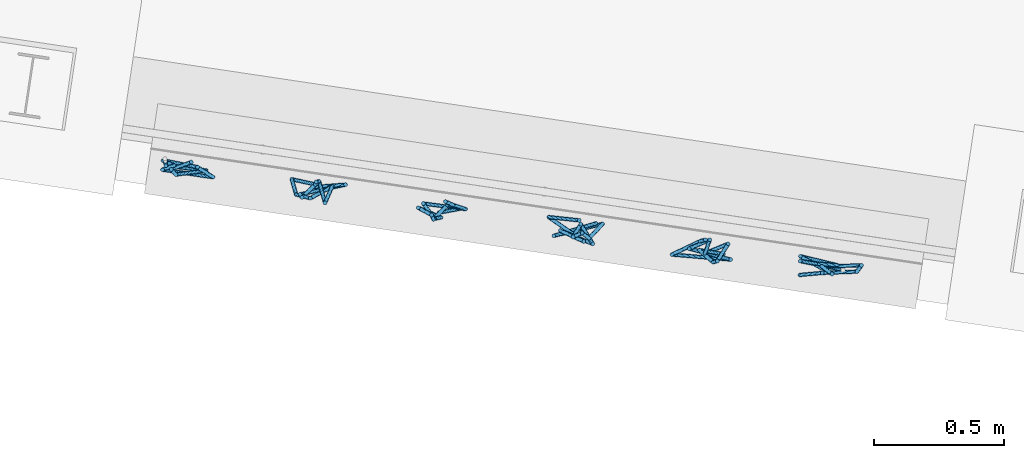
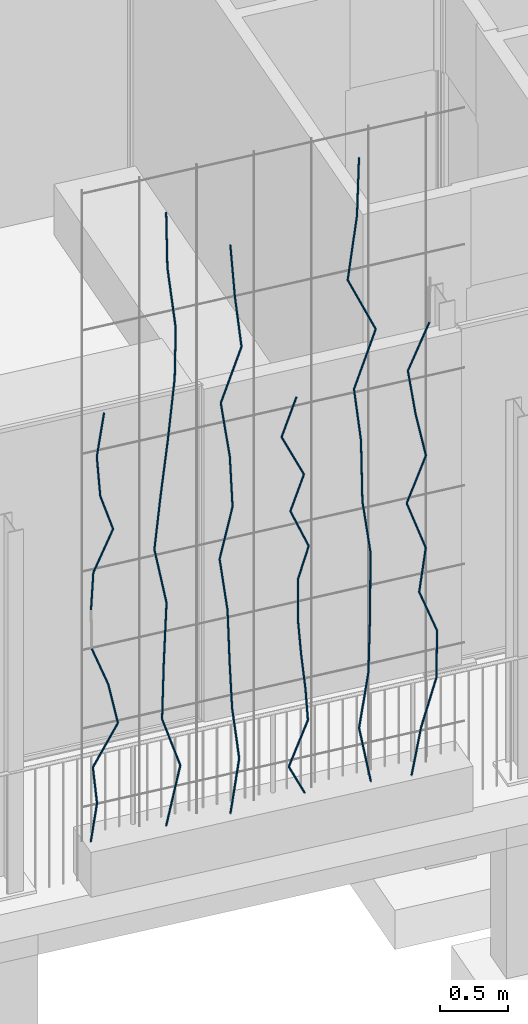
# One storey, part 115 of 142: 64 members, 1 element without a shape of its own.
"""IFC4 building model written with IfcOpenShell, lengths in metres."""

from ifc_helpers import new_model, si_unit, direction, frame, origin_with_axes, place, context, subcontext, project, spatial, circle, extrude, material, material_profile, profile_set, profile_usage, type_object, element, aggregate, save


model = new_model("IFC4")

# Units and contexts
model_context = context("Model", 3, precision=1e-05, world=origin_with_axes(), true_north=direction((0.0, 1.0)))
body_context = subcontext(model_context, "Body", "Model", "MODEL_VIEW")
ifc_project = project(units=[si_unit("AREAUNIT", "SQUARE_METRE"), si_unit("VOLUMEUNIT", "CUBIC_METRE"), si_unit("LENGTHUNIT", "METRE")], contexts=[model_context])

# Site, building, storey
site_placement = place(None, origin_with_axes())
site = spatial("IfcSite", under=ifc_project, at=site_placement, Name="Lares · Rua das Mercês · artigo 4771")
building_placement = place(site_placement, frame((15.0, 9.7, 14.65), z_axis=(0.0, 0.0, 1.0), x_axis=(0.989015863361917, -0.147809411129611, 0.0)))
building = spatial("IfcBuilding", under=site, at=building_placement, Name="Casa Sobreposta")
storey_placement = place(building_placement, origin_with_axes())
storey = spatial("IfcBuildingStorey", under=building, at=storey_placement, Name="00 · Habitação e estacionamento", Elevation=14.65)

# Assembly, members
assembly_placement = place(storey_placement, origin_with_axes())
assembly = element("IfcElementAssembly", 1, at=assembly_placement, inside=storey, Name="Fachada sul e pátio · estrutura e trepadeiras", ObjectType="LIVING_SHADE_TRELLIS", PredefinedType="USERDEFINED")
ifc_material = material(Name="Ramos de trepadeiras", Category="wood")
ifc_material_profile = material_profile(ifc_material, circle(Radius=0.0075))
ifc_profile_set = profile_set([ifc_material_profile], Name="D0.015")
ifc_profile_usage_1 = profile_usage(ifc_profile_set)
member_type = type_object("IfcMemberType", Name="D0.015 / vine_wood", PredefinedType="NOTDEFINED", material=ifc_profile_set)
member_1_placement = place(assembly_placement, frame((4.55197468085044, -1.64925982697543, 0.35), z_axis=(0.129792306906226, -0.0339326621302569, 0.990960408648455), x_axis=(-0.25293691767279, -0.967482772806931, 0.0)))
member_1 = element("IfcMember", 2, at=member_1_placement, type_object=member_type, material=ifc_profile_usage_1, Name="Trepadeiras · ramo", context=body_context, shape_type="SweptSolid", body=[
    extrude(circle(Radius=0.0075), origin_with_axes(), (0.0, 0.0, 1.0), 0.347845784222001),
])
ifc_profile_usage_2 = profile_usage(ifc_profile_set)
member_2_placement = place(assembly_placement, frame((4.59712238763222, -1.66106316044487, 0.694701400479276), z_axis=(-0.119928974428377, -0.0651007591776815, 0.990645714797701), x_axis=(-0.477071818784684, 0.878864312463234, 6.29674832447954e-18)))
member_2 = element("IfcMember", 3, at=member_2_placement, type_object=member_type, material=ifc_profile_usage_2, Name="Trepadeiras · ramo", context=body_context, shape_type="SweptSolid", body=[
    extrude(circle(Radius=0.0075), origin_with_axes(), (0.0, 0.0, 1.0), 0.347956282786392),
])
ifc_profile_usage_3 = profile_usage(ifc_profile_set)
member_3_placement = place(assembly_placement, frame((4.55539234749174, -1.68371537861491, 1.03940280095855), z_axis=(0.495642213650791, 0.000664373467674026, 0.86852654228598), x_axis=(0.00134042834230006, -0.999999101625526, 0.0)))
member_3 = element("IfcMember", 4, at=member_3_placement, type_object=member_type, material=ifc_profile_usage_3, Name="Trepadeiras · ramo", context=body_context, shape_type="SweptSolid", body=[
    extrude(circle(Radius=0.0075), origin_with_axes(), (0.0, 0.0, 1.0), 0.396880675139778),
])
ifc_profile_usage_4 = profile_usage(ifc_profile_set)
member_4_placement = place(assembly_placement, frame((4.75210316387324, -1.68345170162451, 1.38410420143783), z_axis=(-0.183626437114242, 0.0831823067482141, 0.97947028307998), x_axis=(0.41263397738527, 0.910896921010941, 0.0)))
member_4 = element("IfcMember", 5, at=member_4_placement, type_object=member_type, material=ifc_profile_usage_4, Name="Trepadeiras · ramo", context=body_context, shape_type="SweptSolid", body=[
    extrude(circle(Radius=0.0075), origin_with_axes(), (0.0, 0.0, 1.0), 0.351926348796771),
])
ifc_profile_usage_5 = profile_usage(ifc_profile_set)
member_5_placement = place(assembly_placement, frame((4.68748018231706, -1.65417765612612, 1.72880560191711), z_axis=(-0.345167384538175, 0.0158491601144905, 0.938407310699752), x_axis=(0.0458689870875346, 0.998947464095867, -2.35561623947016e-18)))
member_5 = element("IfcMember", 6, at=member_5_placement, type_object=member_type, material=ifc_profile_usage_5, Name="Trepadeiras · ramo", context=body_context, shape_type="SweptSolid", body=[
    extrude(circle(Radius=0.0075), origin_with_axes(), (0.0, 0.0, 1.0), 0.367325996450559),
])
ifc_profile_usage_6 = profile_usage(ifc_profile_set)
member_6_placement = place(assembly_placement, frame((4.55834222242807, -1.64024720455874, 2.41820840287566), z_axis=(0.0218448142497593, -0.0762401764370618, 0.996850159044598), x_axis=(-0.961317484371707, -0.275442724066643, 0.0)))
member_6 = element("IfcMember", 7, at=member_6_placement, type_object=member_type, material=ifc_profile_usage_6, Name="Trepadeiras · ramo", context=body_context, shape_type="SweptSolid", body=[
    extrude(circle(Radius=0.0075), origin_with_axes(), (0.0, 0.0, 1.0), 0.345790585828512),
])
ifc_profile_usage_7 = profile_usage(ifc_profile_set)
member_7_placement = place(assembly_placement, frame((4.56589595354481, -1.66661033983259, 2.76290980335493), z_axis=(0.414696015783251, 0.012751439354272, 0.909870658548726), x_axis=(0.0307343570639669, -0.999527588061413, 0.0)))
member_7 = element("IfcMember", 8, at=member_7_placement, type_object=member_type, material=ifc_profile_usage_7, Name="Trepadeiras · ramo", context=body_context, shape_type="SweptSolid", body=[
    extrude(circle(Radius=0.0075), origin_with_axes(), (0.0, 0.0, 1.0), 0.378846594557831),
])
ifc_profile_usage_8 = profile_usage(ifc_profile_set)
member_8_placement = place(assembly_placement, frame((4.72300212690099, -1.66177950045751, 3.10761120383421), z_axis=(-0.312467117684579, -0.0908269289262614, 0.945576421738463), x_axis=(-0.279123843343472, 0.960255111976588, 0.0)))
member_8 = element("IfcMember", 9, at=member_8_placement, type_object=member_type, material=ifc_profile_usage_8, Name="Trepadeiras · ramo", context=body_context, shape_type="SweptSolid", body=[
    extrude(circle(Radius=0.0075), origin_with_axes(), (0.0, 0.0, 1.0), 0.364541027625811),
])
ifc_profile_usage_9 = profile_usage(ifc_profile_set)
member_9_placement = place(assembly_placement, frame((4.60909504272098, -1.69488964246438, 3.45231260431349), z_axis=(-0.0585484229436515, 0.0497208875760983, 0.997045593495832), x_axis=(0.647306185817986, 0.762230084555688, 0.0)))
member_9 = element("IfcMember", 10, at=member_9_placement, type_object=member_type, material=ifc_profile_usage_9, Name="Trepadeiras · ramo", context=body_context, shape_type="SweptSolid", body=[
    extrude(circle(Radius=0.0075), origin_with_axes(), (0.0, 0.0, 1.0), 0.345722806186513),
])
ifc_profile_usage_10 = profile_usage(ifc_profile_set)
member_10_placement = place(assembly_placement, frame((4.58885351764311, -1.67769999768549, 3.79701400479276), z_axis=(0.203496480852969, 0.111178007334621, 0.97274284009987), x_axis=(0.479450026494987, -0.877569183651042, 0.0)))
member_10 = element("IfcMember", 11, at=member_10_placement, type_object=member_type, material=ifc_profile_usage_10, Name="Trepadeiras · ramo", context=body_context, shape_type="SweptSolid", body=[
    extrude(circle(Radius=0.0075), origin_with_axes(), (0.0, 0.0, 1.0), 0.354360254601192),
])
ifc_profile_usage_11 = profile_usage(ifc_profile_set)
member_11_placement = place(assembly_placement, frame((5.13738922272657, -1.66440915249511, 0.35), z_axis=(0.240432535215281, 0.0544142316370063, 0.96913945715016), x_axis=(0.22073565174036, -0.975333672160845, 0.0)))
member_11 = element("IfcMember", 12, at=member_11_placement, type_object=member_type, material=ifc_profile_usage_11, Name="Trepadeiras · ramo", context=body_context, shape_type="SweptSolid", body=[
    extrude(circle(Radius=0.0075), origin_with_axes(), (0.0, 0.0, 1.0), 0.511992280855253),
])
ifc_profile_usage_12 = profile_usage(ifc_profile_set)
member_12_placement = place(assembly_placement, frame((5.26048882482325, -1.63654948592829, 0.846191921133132), z_axis=(-0.318008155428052, -0.119200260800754, 0.940564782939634), x_axis=(-0.350987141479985, 0.936380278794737, 0.0)))
member_12 = element("IfcMember", 13, at=member_12_placement, type_object=member_type, material=ifc_profile_usage_12, Name="Trepadeiras · ramo", context=body_context, shape_type="SweptSolid", body=[
    extrude(circle(Radius=0.0075), origin_with_axes(), (0.0, 0.0, 1.0), 0.527546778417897),
])
ifc_profile_usage_13 = profile_usage(ifc_profile_set)
member_13_placement = place(assembly_placement, frame((5.09272464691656, -1.6994331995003, 1.34238384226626), z_axis=(0.0181040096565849, -0.0206847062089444, 0.999622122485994), x_axis=(0.999836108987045, 0.000374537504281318, -0.0181001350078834)))
member_13 = element("IfcMember", 14, at=member_13_placement, type_object=member_type, material=ifc_profile_usage_13, Name="Trepadeiras · ramo", context=body_context, shape_type="SweptSolid", body=[
    extrude(circle(Radius=0.0075), origin_with_axes(), (0.0, 0.0, 1.0), 0.49637949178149),
])
ifc_profile_usage_14 = profile_usage(ifc_profile_set)
member_14_placement = place(assembly_placement, frame((5.10171110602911, -1.70970066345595, 1.8385757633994), z_axis=(0.0881972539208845, 0.113613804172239, 0.989602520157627), x_axis=(0.789921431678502, -0.613208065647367, 0.0)))
member_14 = element("IfcMember", 15, at=member_14_placement, type_object=member_type, material=ifc_profile_usage_14, Name="Trepadeiras · ramo", context=body_context, shape_type="SweptSolid", body=[
    extrude(circle(Radius=0.0075), origin_with_axes(), (0.0, 0.0, 1.0), 0.5014052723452),
])
ifc_profile_usage_15 = profile_usage(ifc_profile_set)
member_15_placement = place(assembly_placement, frame((5.14593367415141, -1.65273410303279, 2.33476768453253), z_axis=(-0.18412719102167, 0.0119105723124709, 0.982830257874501), x_axis=(0.0645517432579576, 0.997914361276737, 0.0)))
member_15 = element("IfcMember", 16, at=member_15_placement, type_object=member_type, material=ifc_profile_usage_15, Name="Trepadeiras · ramo", context=body_context, shape_type="SweptSolid", body=[
    extrude(circle(Radius=0.0075), origin_with_axes(), (0.0, 0.0, 1.0), 0.50486024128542),
])
ifc_profile_usage_16 = profile_usage(ifc_profile_set)
member_16_placement = place(assembly_placement, frame((5.052975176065, -1.64672092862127, 2.83095960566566), z_axis=(0.0509410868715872, -0.111318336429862, 0.992478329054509), x_axis=(-0.909311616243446, -0.416115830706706, 0.0)))
member_16 = element("IfcMember", 17, at=member_16_placement, type_object=member_type, material=ifc_profile_usage_16, Name="Trepadeiras · ramo", context=body_context, shape_type="SweptSolid", body=[
    extrude(circle(Radius=0.0075), origin_with_axes(), (0.0, 0.0, 1.0), 0.499952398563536),
])
ifc_profile_usage_17 = profile_usage(ifc_profile_set)
member_17_placement = place(assembly_placement, frame((5.07844329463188, -1.70237479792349, 3.32715152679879), z_axis=(0.111662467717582, -0.0113171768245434, 0.993681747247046), x_axis=(-0.100835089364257, -0.994903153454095, 0.0)))
member_17 = element("IfcMember", 18, at=member_17_placement, type_object=member_type, material=ifc_profile_usage_17, Name="Trepadeiras · ramo", context=body_context, shape_type="SweptSolid", body=[
    extrude(circle(Radius=0.0075), origin_with_axes(), (0.0, 0.0, 1.0), 0.499346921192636),
])
ifc_profile_usage_18 = profile_usage(ifc_profile_set)
member_18_placement = place(assembly_placement, frame((5.13420160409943, -1.70802599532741, 3.82334344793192), z_axis=(0.150889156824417, 0.111712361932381, 0.982218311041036), x_axis=(0.595030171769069, -0.803703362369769, 0.0)))
member_18 = element("IfcMember", 19, at=member_18_placement, type_object=member_type, material=ifc_profile_usage_18, Name="Trepadeiras · ramo", context=body_context, shape_type="SweptSolid", body=[
    extrude(circle(Radius=0.0075), origin_with_axes(), (0.0, 0.0, 1.0), 0.505174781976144),
])
ifc_profile_usage_19 = profile_usage(ifc_profile_set)
member_19_placement = place(assembly_placement, frame((5.21042700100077, -1.65159172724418, 4.31953536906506), z_axis=(-0.0354680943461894, -0.131438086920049, 0.99068968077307), x_axis=(-0.965466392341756, 0.260527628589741, 0.0)))
member_19 = element("IfcMember", 20, at=member_19_placement, type_object=member_type, material=ifc_profile_usage_19, Name="Trepadeiras · ramo", context=body_context, shape_type="SweptSolid", body=[
    extrude(circle(Radius=0.0075), origin_with_axes(), (0.0, 0.0, 1.0), 0.500855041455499),
])
ifc_profile_usage_20 = profile_usage(ifc_profile_set)
member_20_placement = place(assembly_placement, frame((5.19266262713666, -1.71742315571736, 4.81572729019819), z_axis=(-0.0686747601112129, 0.155818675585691, 0.985395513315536), x_axis=(0.915066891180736, 0.403302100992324, 0.0)))
member_20 = element("IfcMember", 21, at=member_20_placement, type_object=member_type, material=ifc_profile_usage_20, Name="Trepadeiras · ramo", context=body_context, shape_type="SweptSolid", body=[
    extrude(circle(Radius=0.0075), origin_with_axes(), (0.0, 0.0, 1.0), 0.503545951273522),
])
ifc_profile_usage_21 = profile_usage(ifc_profile_set)
member_21_placement = place(assembly_placement, frame((5.15808172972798, -1.63896129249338, 5.31191921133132), z_axis=(-0.0221663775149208, -0.00749263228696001, 0.999726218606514), x_axis=(0.999754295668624, -0.000166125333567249, 0.0221657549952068)))
member_21 = element("IfcMember", 22, at=member_21_placement, type_object=member_type, material=ifc_profile_usage_21, Name="Trepadeiras · ramo", context=body_context, shape_type="SweptSolid", body=[
    extrude(circle(Radius=0.0075), origin_with_axes(), (0.0, 0.0, 1.0), 0.496327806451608),
])
ifc_profile_usage_22 = profile_usage(ifc_profile_set)
member_22_placement = place(assembly_placement, frame((5.63220136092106, -1.68990743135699, 0.35), z_axis=(0.173486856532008, 0.0605084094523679, 0.982975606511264), x_axis=(0.32932236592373, -0.944217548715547, 0.0)))
member_22 = element("IfcMember", 23, at=member_22_placement, type_object=member_type, material=ifc_profile_usage_22, Name="Trepadeiras · ramo", context=body_context, shape_type="SweptSolid", body=[
    extrude(circle(Radius=0.0075), origin_with_axes(), (0.0, 0.0, 1.0), 0.466118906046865),
])
ifc_profile_usage_23 = profile_usage(ifc_profile_set)
member_23_placement = place(assembly_placement, frame((5.71306686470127, -1.66170331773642, 0.808183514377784), z_axis=(-0.115708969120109, 0.0131407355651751, 0.993196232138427), x_axis=(0.1128417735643, 0.993612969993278, 0.0)))
member_23 = element("IfcMember", 24, at=member_23_placement, type_object=member_type, material=ifc_profile_usage_23, Name="Trepadeiras · ramo", context=body_context, shape_type="SweptSolid", body=[
    extrude(circle(Radius=0.0075), origin_with_axes(), (0.0, 0.0, 1.0), 0.461322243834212),
])
ifc_profile_usage_24 = profile_usage(ifc_profile_set)
member_24_placement = place(assembly_placement, frame((5.65968774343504, -1.65564120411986, 1.26636702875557), z_axis=(-0.0956717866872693, -0.135853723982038, 0.986098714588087), x_axis=(-0.817605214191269, 0.575779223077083, 0.0)))
member_24 = element("IfcMember", 25, at=member_24_placement, type_object=member_type, material=ifc_profile_usage_24, Name="Trepadeiras · ramo", context=body_context, shape_type="SweptSolid", body=[
    extrude(circle(Radius=0.0075), origin_with_axes(), (0.0, 0.0, 1.0), 0.464642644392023),
])
ifc_profile_usage_25 = profile_usage(ifc_profile_set)
member_25_placement = place(assembly_placement, frame((5.61523455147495, -1.71876463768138, 1.72455054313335), z_axis=(-0.0217451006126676, 0.0344773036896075, 0.999168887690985), x_axis=(0.999763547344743, 0.000749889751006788, 0.0217321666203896)))
member_25 = element("IfcMember", 26, at=member_25_placement, type_object=member_type, material=ifc_profile_usage_25, Name="Trepadeiras · ramo", context=body_context, shape_type="SweptSolid", body=[
    extrude(circle(Radius=0.0075), origin_with_axes(), (0.0, 0.0, 1.0), 0.458564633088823),
])
ifc_profile_usage_26 = profile_usage(ifc_profile_set)
member_26_placement = place(assembly_placement, frame((5.60526301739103, -1.70295456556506, 2.18273405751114), z_axis=(-0.118138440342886, 0.0429210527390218, 0.992069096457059), x_axis=(0.341473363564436, 0.939891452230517, 0.0)))
member_26 = element("IfcMember", 27, at=member_26_placement, type_object=member_type, material=ifc_profile_usage_26, Name="Trepadeiras · ramo", context=body_context, shape_type="SweptSolid", body=[
    extrude(circle(Radius=0.0075), origin_with_axes(), (0.0, 0.0, 1.0), 0.461846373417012),
])
ifc_profile_usage_27 = profile_usage(ifc_profile_set)
member_27_placement = place(assembly_placement, frame((5.55070120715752, -1.6831316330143, 2.64091757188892), z_axis=(0.19709303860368, -0.0505499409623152, 0.979080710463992), x_axis=(-0.248436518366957, -0.968648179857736, 0.0)))
member_27 = element("IfcMember", 28, at=member_27_placement, type_object=member_type, material=ifc_profile_usage_27, Name="Trepadeiras · ramo", context=body_context, shape_type="SweptSolid", body=[
    extrude(circle(Radius=0.0075), origin_with_axes(), (0.0, 0.0, 1.0), 0.467973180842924),
])
ifc_profile_usage_28 = profile_usage(ifc_profile_set)
member_28_placement = place(assembly_placement, frame((5.64293546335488, -1.70678764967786, 3.0991010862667), z_axis=(-0.054053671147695, -0.0197998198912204, 0.998341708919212), x_axis=(-0.343950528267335, 0.938987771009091, 0.0)))
member_28 = element("IfcMember", 29, at=member_28_placement, type_object=member_type, material=ifc_profile_usage_28, Name="Trepadeiras · ramo", context=body_context, shape_type="SweptSolid", body=[
    extrude(circle(Radius=0.0075), origin_with_axes(), (0.0, 0.0, 1.0), 0.458944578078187),
])
ifc_profile_usage_29 = profile_usage(ifc_profile_set)
member_29_placement = place(assembly_placement, frame((5.61812782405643, -1.71587466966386, 3.55728460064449), z_axis=(-0.109531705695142, 0.111331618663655, 0.987728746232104), x_axis=(0.712845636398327, 0.701320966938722, 0.0)))
member_29 = element("IfcMember", 30, at=member_29_placement, type_object=member_type, material=ifc_profile_usage_29, Name="Trepadeiras · ramo", context=body_context, shape_type="SweptSolid", body=[
    extrude(circle(Radius=0.0075), origin_with_axes(), (0.0, 0.0, 1.0), 0.463875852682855),
])
ifc_profile_usage_30 = profile_usage(ifc_profile_set)
member_30_placement = place(assembly_placement, frame((5.56731871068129, -1.6642306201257, 4.01546811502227), z_axis=(0.336572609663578, 0.00606468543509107, 0.941637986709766), x_axis=(0.0180160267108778, -0.999837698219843, 0.0)))
member_30 = element("IfcMember", 31, at=member_30_placement, type_object=member_type, material=ifc_profile_usage_30, Name="Trepadeiras · ramo", context=body_context, shape_type="SweptSolid", body=[
    extrude(circle(Radius=0.0075), origin_with_axes(), (0.0, 0.0, 1.0), 0.48658138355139),
])
ifc_profile_usage_31 = profile_usage(ifc_profile_set)
member_31_placement = place(assembly_placement, frame((5.73108867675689, -1.66127965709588, 4.47365162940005), z_axis=(-0.106013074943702, 0.0180386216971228, 0.994201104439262), x_axis=(0.167743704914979, 0.985830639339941, 0.0)))
member_31 = element("IfcMember", 32, at=member_31_placement, type_object=member_type, material=ifc_profile_usage_31, Name="Trepadeiras · ramo", context=body_context, shape_type="SweptSolid", body=[
    extrude(circle(Radius=0.0075), origin_with_axes(), (0.0, 0.0, 1.0), 0.460855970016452),
])
ifc_profile_usage_32 = profile_usage(ifc_profile_set)
member_32_placement = place(assembly_placement, frame((5.68223191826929, -1.6529664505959, 4.93183514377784), z_axis=(-0.0697881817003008, 0.0188845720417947, 0.997383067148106), x_axis=(0.261204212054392, 0.965283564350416, 0.0)))
member_32 = element("IfcMember", 33, at=member_32_placement, type_object=member_type, material=ifc_profile_usage_32, Name="Trepadeiras · ramo", context=body_context, shape_type="SweptSolid", body=[
    extrude(circle(Radius=0.0075), origin_with_axes(), (0.0, 0.0, 1.0), 0.459385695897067),
])
ifc_profile_usage_33 = profile_usage(ifc_profile_set)
member_33_placement = place(assembly_placement, frame((6.23679718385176, -1.64103048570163, 0.35), z_axis=(-0.42416376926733, -0.196770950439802, 0.883949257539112), x_axis=(-0.420825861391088, 0.90714144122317, 0.0)))
member_33 = element("IfcMember", 34, at=member_33_placement, type_object=member_type, material=ifc_profile_usage_33, Name="Trepadeiras · ramo", context=body_context, shape_type="SweptSolid", body=[
    extrude(circle(Radius=0.0075), origin_with_axes(), (0.0, 0.0, 1.0), 0.364794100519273),
])
ifc_profile_usage_34 = profile_usage(ifc_profile_set)
member_34_placement = place(assembly_placement, frame((6.08206474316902, -1.71281136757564, 0.67245947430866), z_axis=(0.475917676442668, 0.19443061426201, 0.857729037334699), x_axis=(0.378194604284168, -0.925726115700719, 0.0)))
member_34 = element("IfcMember", 35, at=member_34_placement, type_object=member_type, material=ifc_profile_usage_34, Name="Trepadeiras · ramo", context=body_context, shape_type="SweptSolid", body=[
    extrude(circle(Radius=0.0075), origin_with_axes(), (0.0, 0.0, 1.0), 0.375945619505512),
])
ifc_profile_usage_35 = profile_usage(ifc_profile_set)
member_35_placement = place(assembly_placement, frame((6.26098390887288, -1.63971602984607, 0.994918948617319), z_axis=(-0.130658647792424, -0.188661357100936, 0.973311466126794), x_axis=(-0.822096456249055, 0.569348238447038, 0.0)))
member_35 = element("IfcMember", 36, at=member_35_placement, type_object=member_type, material=ifc_profile_usage_35, Name="Trepadeiras · ramo", context=body_context, shape_type="SweptSolid", body=[
    extrude(circle(Radius=0.0075), origin_with_axes(), (0.0, 0.0, 1.0), 0.331301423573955),
])
ifc_profile_usage_36 = profile_usage(ifc_profile_set)
member_36_placement = place(assembly_placement, frame((6.21769651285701, -1.702219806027, 1.31737842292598), z_axis=(-0.0893962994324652, 0.0502500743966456, 0.994727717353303), x_axis=(0.489999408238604, 0.871722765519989, 0.0)))
member_36 = element("IfcMember", 37, at=member_36_placement, type_object=member_type, material=ifc_profile_usage_36, Name="Trepadeiras · ramo", context=body_context, shape_type="SweptSolid", body=[
    extrude(circle(Radius=0.0075), origin_with_axes(), (0.0, 0.0, 1.0), 0.324168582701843),
])
ifc_profile_usage_37 = profile_usage(ifc_profile_set)
member_37_placement = place(assembly_placement, frame((6.18871704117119, -1.68593031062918, 1.63983789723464), z_axis=(-0.100606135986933, -0.0629655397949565, 0.992931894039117), x_axis=(-0.53052417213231, 0.847669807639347, 0.0)))
member_37 = element("IfcMember", 38, at=member_37_placement, type_object=member_type, material=ifc_profile_usage_37, Name="Trepadeiras · ramo", context=body_context, shape_type="SweptSolid", body=[
    extrude(circle(Radius=0.0075), origin_with_axes(), (0.0, 0.0, 1.0), 0.324754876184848),
])
ifc_profile_usage_38 = profile_usage(ifc_profile_set)
member_38_placement = place(assembly_placement, frame((6.15604470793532, -1.70637867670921, 1.9622973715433), z_axis=(0.068330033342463, 0.161303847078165, 0.984536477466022), x_axis=(0.920790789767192, -0.390056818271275, 0.0)))
member_38 = element("IfcMember", 39, at=member_38_placement, type_object=member_type, material=ifc_profile_usage_38, Name="Trepadeiras · ramo", context=body_context, shape_type="SweptSolid", body=[
    extrude(circle(Radius=0.0075), origin_with_axes(), (0.0, 0.0, 1.0), 0.327524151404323),
])
ifc_profile_usage_39 = profile_usage(ifc_profile_set)
member_39_placement = place(assembly_placement, frame((6.17842444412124, -1.65354777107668, 2.28475684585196), z_axis=(0.170380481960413, -0.202410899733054, 0.964365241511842), x_axis=(-0.765043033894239, -0.64397915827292, 0.0)))
member_39 = element("IfcMember", 40, at=member_39_placement, type_object=member_type, material=ifc_profile_usage_39, Name="Trepadeiras · ramo", context=body_context, shape_type="SweptSolid", body=[
    extrude(circle(Radius=0.0075), origin_with_axes(), (0.0, 0.0, 1.0), 0.334374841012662),
])
ifc_profile_usage_40 = profile_usage(ifc_profile_set)
member_40_placement = place(assembly_placement, frame((6.23539539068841, -1.72122888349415, 2.60721632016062), z_axis=(-0.376155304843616, 0.0917282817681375, 0.922004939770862), x_axis=(0.236914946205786, 0.971530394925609, 0.0)))
member_40 = element("IfcMember", 41, at=member_40_placement, type_object=member_type, material=ifc_profile_usage_40, Name="Trepadeiras · ramo", context=body_context, shape_type="SweptSolid", body=[
    extrude(circle(Radius=0.0075), origin_with_axes(), (0.0, 0.0, 1.0), 0.349737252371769),
])
ifc_profile_usage_41 = profile_usage(ifc_profile_set)
member_41_placement = place(assembly_placement, frame((6.10383986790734, -1.68914808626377, 2.92967579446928), z_axis=(0.282893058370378, -0.0830680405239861, 0.955547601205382), x_axis=(-0.281742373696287, -0.959490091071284, 0.0)))
member_41 = element("IfcMember", 42, at=member_41_placement, type_object=member_type, material=ifc_profile_usage_41, Name="Trepadeiras · ramo", context=body_context, shape_type="SweptSolid", body=[
    extrude(circle(Radius=0.0075), origin_with_axes(), (0.0, 0.0, 1.0), 0.337460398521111),
])
ifc_profile_usage_42 = profile_usage(ifc_profile_set)
member_42_placement = place(assembly_placement, frame((6.19930507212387, -1.71718026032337, 3.25213526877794), z_axis=(-0.406099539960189, 0.201123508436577, 0.891421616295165), x_axis=(0.443809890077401, 0.896120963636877, 0.0)))
member_42 = element("IfcMember", 43, at=member_42_placement, type_object=member_type, material=ifc_profile_usage_42, Name="Trepadeiras · ramo", context=body_context, shape_type="SweptSolid", body=[
    extrude(circle(Radius=0.0075), origin_with_axes(), (0.0, 0.0, 1.0), 0.361736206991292),
])
ifc_profile_usage_43 = profile_usage(ifc_profile_set)
member_43_placement = place(assembly_placement, frame((6.05240416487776, -1.64442660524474, 3.5745947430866), z_axis=(0.344211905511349, 0.0140146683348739, 0.938787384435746), x_axis=(0.0406815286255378, -0.999172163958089, 0.0)))
member_43 = element("IfcMember", 44, at=member_43_placement, type_object=member_type, material=ifc_profile_usage_43, Name="Trepadeiras · ramo", context=body_context, shape_type="SweptSolid", body=[
    extrude(circle(Radius=0.0075), origin_with_axes(), (0.0, 0.0, 1.0), 0.343485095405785),
])
ifc_profile_usage_44 = profile_usage(ifc_profile_set)
member_44_placement = place(assembly_placement, frame((6.73808430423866, -1.68561583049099, 0.35), z_axis=(-0.181547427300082, 0.00211914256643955, 0.983379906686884), x_axis=(0.0116718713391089, 0.999931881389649, 0.0)))
member_44 = element("IfcMember", 45, at=member_44_placement, type_object=member_type, material=ifc_profile_usage_44, Name="Trepadeiras · ramo", context=body_context, shape_type="SweptSolid", body=[
    extrude(circle(Radius=0.0075), origin_with_axes(), (0.0, 0.0, 1.0), 0.513770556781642),
])
ifc_profile_usage_45 = profile_usage(ifc_profile_set)
member_45_placement = place(assembly_placement, frame((6.64481058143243, -1.68452707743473, 0.8552316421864), z_axis=(0.114898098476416, -0.0745573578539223, 0.990575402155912), x_axis=(-0.544339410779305, -0.838865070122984, -1.2545762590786e-17)))
member_45 = element("IfcMember", 46, at=member_45_placement, type_object=member_type, material=ifc_profile_usage_45, Name="Trepadeiras · ramo", context=body_context, shape_type="SweptSolid", body=[
    extrude(circle(Radius=0.0075), origin_with_axes(), (0.0, 0.0, 1.0), 0.510038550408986),
])
ifc_profile_usage_46 = profile_usage(ifc_profile_set)
member_46_placement = place(assembly_placement, frame((6.70341304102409, -1.72255420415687, 1.3604632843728), z_axis=(0.0306536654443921, 0.0133643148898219, 0.999440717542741), x_axis=(0.999530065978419, -0.000409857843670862, -0.0306509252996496)))
member_46 = element("IfcMember", 47, at=member_46_placement, type_object=member_type, material=ifc_profile_usage_46, Name="Trepadeiras · ramo", context=body_context, shape_type="SweptSolid", body=[
    extrude(circle(Radius=0.0075), origin_with_axes(), (0.0, 0.0, 1.0), 0.505514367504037),
])
ifc_profile_usage_47 = profile_usage(ifc_profile_set)
member_47_placement = place(assembly_placement, frame((6.71890890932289, -1.71579835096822, 1.8656949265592), z_axis=(0.0613470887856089, 0.139942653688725, 0.988257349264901), x_axis=(0.915863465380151, -0.40148986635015, -1.12196920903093e-17)))
member_47 = element("IfcMember", 48, at=member_47_placement, type_object=member_type, material=ifc_profile_usage_47, Name="Trepadeiras · ramo", context=body_context, shape_type="SweptSolid", body=[
    extrude(circle(Radius=0.0075), origin_with_axes(), (0.0, 0.0, 1.0), 0.511234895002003),
])
ifc_profile_usage_48 = profile_usage(ifc_profile_set)
member_48_placement = place(assembly_placement, frame((6.75027168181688, -1.64425478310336, 2.3709265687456), z_axis=(-0.160372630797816, -0.0941871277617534, 0.982552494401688), x_axis=(-0.506421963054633, 0.862285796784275, 0.0)))
member_48 = element("IfcMember", 49, at=member_48_placement, type_object=member_type, material=ifc_profile_usage_48, Name="Trepadeiras · ramo", context=body_context, shape_type="SweptSolid", body=[
    extrude(circle(Radius=0.0075), origin_with_axes(), (0.0, 0.0, 1.0), 0.514203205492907),
])
ifc_profile_usage_49 = profile_usage(ifc_profile_set)
member_49_placement = place(assembly_placement, frame((6.66780756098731, -1.69268610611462, 2.876158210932), z_axis=(0.0197044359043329, 0.105077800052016, 0.994268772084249), x_axis=(0.982868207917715, -0.18430975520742, 0.0)))
member_49 = element("IfcMember", 50, at=member_49_placement, type_object=member_type, material=ifc_profile_usage_49, Name="Trepadeiras · ramo", context=body_context, shape_type="SweptSolid", body=[
    extrude(circle(Radius=0.0075), origin_with_axes(), (0.0, 0.0, 1.0), 0.508143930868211),
])
ifc_profile_usage_50 = profile_usage(ifc_profile_set)
member_50_placement = place(assembly_placement, frame((6.67782025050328, -1.63929145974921, 3.3813898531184), z_axis=(-0.141774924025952, -0.0883735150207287, 0.985946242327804), x_axis=(-0.528983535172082, 0.848632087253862, 0.0)))
member_50 = element("IfcMember", 51, at=member_50_placement, type_object=member_type, material=ifc_profile_usage_50, Name="Trepadeiras · ramo", context=body_context, shape_type="SweptSolid", body=[
    extrude(circle(Radius=0.0075), origin_with_axes(), (0.0, 0.0, 1.0), 0.512433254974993),
])
ifc_profile_usage_51 = profile_usage(ifc_profile_set)
member_51_placement = place(assembly_placement, frame((6.60517006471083, -1.68457698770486, 3.8866214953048), z_axis=(0.307758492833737, -0.0338588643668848, 0.950861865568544), x_axis=(-0.109357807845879, -0.99400244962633, 0.0)))
member_51 = element("IfcMember", 52, at=member_51_placement, type_object=member_type, material=ifc_profile_usage_51, Name="Trepadeiras · ramo", context=body_context, shape_type="SweptSolid", body=[
    extrude(circle(Radius=0.0075), origin_with_axes(), (0.0, 0.0, 1.0), 0.531340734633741),
])
ifc_profile_usage_52 = profile_usage(ifc_profile_set)
member_52_placement = place(assembly_placement, frame((6.76869468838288, -1.70256758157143, 4.3918531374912), z_axis=(-0.408006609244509, -0.0258958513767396, 0.91261164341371), x_axis=(-0.063341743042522, 0.997991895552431, 0.0)))
member_52 = element("IfcMember", 53, at=member_52_placement, type_object=member_type, material=ifc_profile_usage_52, Name="Trepadeiras · ramo", context=body_context, shape_type="SweptSolid", body=[
    extrude(circle(Radius=0.0075), origin_with_axes(), (0.0, 0.0, 1.0), 0.553610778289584),
])
ifc_profile_usage_53 = profile_usage(ifc_profile_set)
member_53_placement = place(assembly_placement, frame((6.54281783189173, -1.71690380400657, 4.8970847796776), z_axis=(0.191503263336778, 0.128508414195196, 0.973042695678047), x_axis=(0.557217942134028, -0.830366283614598, 0.0)))
member_53 = element("IfcMember", 54, at=member_53_placement, type_object=member_type, material=ifc_profile_usage_53, Name="Trepadeiras · ramo", context=body_context, shape_type="SweptSolid", body=[
    extrude(circle(Radius=0.0075), origin_with_axes(), (0.0, 0.0, 1.0), 0.519228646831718),
])
ifc_profile_usage_54 = profile_usage(ifc_profile_set)
member_54_placement = place(assembly_placement, frame((6.64225181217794, -1.65017855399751, 5.402316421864), z_axis=(0.0377144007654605, 0.0174593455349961, 0.999136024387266), x_axis=(0.999288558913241, -0.000658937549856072, -0.0377086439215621)))
member_54 = element("IfcMember", 55, at=member_54_placement, type_object=member_type, material=ifc_profile_usage_54, Name="Trepadeiras · ramo", context=body_context, shape_type="SweptSolid", body=[
    extrude(circle(Radius=0.0075), origin_with_axes(), (0.0, 0.0, 1.0), 0.505668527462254),
])
ifc_profile_usage_55 = profile_usage(ifc_profile_set)
member_55_placement = place(assembly_placement, frame((7.0409717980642, -1.72179415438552, 0.35), z_axis=(0.206799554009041, 0.0504590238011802, 0.977081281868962), x_axis=(0.237045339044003, -0.971498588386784, 0.0)))
member_55 = element("IfcMember", 56, at=member_55_placement, type_object=member_type, material=ifc_profile_usage_55, Name="Trepadeiras · ramo", context=body_context, shape_type="SweptSolid", body=[
    extrude(circle(Radius=0.0075), origin_with_axes(), (0.0, 0.0, 1.0), 0.40704822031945),
])
ifc_profile_usage_56 = profile_usage(ifc_profile_set)
member_56_placement = place(assembly_placement, frame((7.12514918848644, -1.7012548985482, 0.747719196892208), z_axis=(0.311542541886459, 0.0586496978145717, 0.948420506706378), x_axis=(0.185006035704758, -0.982737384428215, 0.0)))
member_56 = element("IfcMember", 57, at=member_56_placement, type_object=member_type, material=ifc_profile_usage_56, Name="Trepadeiras · ramo", context=body_context, shape_type="SweptSolid", body=[
    extrude(circle(Radius=0.0075), origin_with_axes(), (0.0, 0.0, 1.0), 0.419349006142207),
])
ifc_profile_usage_57 = profile_usage(ifc_profile_set)
member_57_placement = place(assembly_placement, frame((7.25579424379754, -1.67666020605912, 1.14543839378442), z_axis=(0.0355192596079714, 0.0656197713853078, 0.997212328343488), x_axis=(0.879431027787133, -0.476026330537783, 0.0)))
member_57 = element("IfcMember", 58, at=member_57_placement, type_object=member_type, material=ifc_profile_usage_57, Name="Trepadeiras · ramo", context=body_context, shape_type="SweptSolid", body=[
    extrude(circle(Radius=0.0075), origin_with_axes(), (0.0, 0.0, 1.0), 0.398831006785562),
])
ifc_profile_usage_58 = profile_usage(ifc_profile_set)
member_58_placement = place(assembly_placement, frame((7.26996042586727, -1.65048900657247, 1.54315759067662), z_axis=(-0.352017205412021, -0.0610474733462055, 0.934000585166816), x_axis=(-0.170871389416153, 0.985293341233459, 0.0)))
member_58 = element("IfcMember", 59, at=member_58_placement, type_object=member_type, material=ifc_profile_usage_58, Name="Trepadeiras · ramo", context=body_context, shape_type="SweptSolid", body=[
    extrude(circle(Radius=0.0075), origin_with_axes(), (0.0, 0.0, 1.0), 0.425823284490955),
])
ifc_profile_usage_59 = profile_usage(ifc_profile_set)
member_59_placement = place(assembly_placement, frame((7.12006330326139, -1.67648444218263, 1.94087678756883), z_axis=(0.106642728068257, -0.0582669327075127, 0.992588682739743), x_axis=(-0.479474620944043, -0.877555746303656, 0.0)))
member_59 = element("IfcMember", 60, at=member_59_placement, type_object=member_type, material=ifc_profile_usage_59, Name="Trepadeiras · ramo", context=body_context, shape_type="SweptSolid", body=[
    extrude(circle(Radius=0.0075), origin_with_axes(), (0.0, 0.0, 1.0), 0.400688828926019),
])
ifc_profile_usage_60 = profile_usage(ifc_profile_set)
member_60_placement = place(assembly_placement, frame((7.16279385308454, -1.69983135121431, 2.33859598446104), z_axis=(-0.309633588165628, 0.117325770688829, 0.943589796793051), x_axis=(0.35433355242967, 0.935119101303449, 0.0)))
member_60 = element("IfcMember", 61, at=member_60_placement, type_object=member_type, material=ifc_profile_usage_60, Name="Trepadeiras · ramo", context=body_context, shape_type="SweptSolid", body=[
    extrude(circle(Radius=0.0075), origin_with_axes(), (0.0, 0.0, 1.0), 0.421495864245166),
])
ifc_profile_usage_61 = profile_usage(ifc_profile_set)
member_61_placement = place(assembly_placement, frame((7.03228457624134, -1.6503790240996, 2.73631518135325), z_axis=(0.34367232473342, -0.0309587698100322, 0.938579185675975), x_axis=(-0.0897189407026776, -0.99596712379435, 0.0)))
member_61 = element("IfcMember", 62, at=member_61_placement, type_object=member_type, material=ifc_profile_usage_61, Name="Trepadeiras · ramo", context=body_context, shape_type="SweptSolid", body=[
    extrude(circle(Radius=0.0075), origin_with_axes(), (0.0, 0.0, 1.0), 0.423746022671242),
])
ifc_profile_usage_62 = profile_usage(ifc_profile_set)
member_62_placement = place(assembly_placement, frame((7.1779143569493, -1.66349767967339, 3.13403437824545), z_axis=(-0.206255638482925, -0.0155963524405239, 0.978373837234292), x_axis=(-0.0754013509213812, 0.997153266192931, 0.0)))
member_62 = element("IfcMember", 63, at=member_62_placement, type_object=member_type, material=ifc_profile_usage_62, Name="Trepadeiras · ramo", context=body_context, shape_type="SweptSolid", body=[
    extrude(circle(Radius=0.0075), origin_with_axes(), (0.0, 0.0, 1.0), 0.406510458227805),
])
ifc_profile_usage_63 = profile_usage(ifc_profile_set)
member_63_placement = place(assembly_placement, frame((7.09406928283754, -1.66983776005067, 3.53175357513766), z_axis=(-0.148424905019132, 0.0027206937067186, 0.988919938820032), x_axis=(0.0183273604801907, 0.999832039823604, 0.0)))
member_63 = element("IfcMember", 64, at=member_63_placement, type_object=member_type, material=ifc_profile_usage_63, Name="Trepadeiras · ramo", context=body_context, shape_type="SweptSolid", body=[
    extrude(circle(Radius=0.0075), origin_with_axes(), (0.0, 0.0, 1.0), 0.402175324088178),
])
ifc_profile_usage_64 = profile_usage(ifc_profile_set)
member_64_placement = place(assembly_placement, frame((7.03437644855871, -1.66874356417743, 3.92947277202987), z_axis=(0.384388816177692, -0.0208349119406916, 0.92293615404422), x_axis=(-0.0541232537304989, -0.998534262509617, 0.0)))
member_64 = element("IfcMember", 65, at=member_64_placement, type_object=member_type, material=ifc_profile_usage_64, Name="Trepadeiras · ramo", context=body_context, shape_type="SweptSolid", body=[
    extrude(circle(Radius=0.0075), origin_with_axes(), (0.0, 0.0, 1.0), 0.430928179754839),
])
aggregate(assembly, [member_1, member_2, member_3, member_4, member_5, member_6, member_7, member_8, member_9, member_10, member_11, member_12, member_13, member_14, member_15, member_16, member_17, member_18, member_19, member_20, member_21, member_22, member_23, member_24, member_25, member_26, member_27, member_28, member_29, member_30, member_31, member_32, member_33, member_34, member_35, member_36, member_37, member_38, member_39, member_40, member_41, member_42, member_43, member_44, member_45, member_46, member_47, member_48, member_49, member_50, member_51, member_52, member_53, member_54, member_55, member_56, member_57, member_58, member_59, member_60, member_61, member_62, member_63, member_64])

save(model, "model.ifc")
